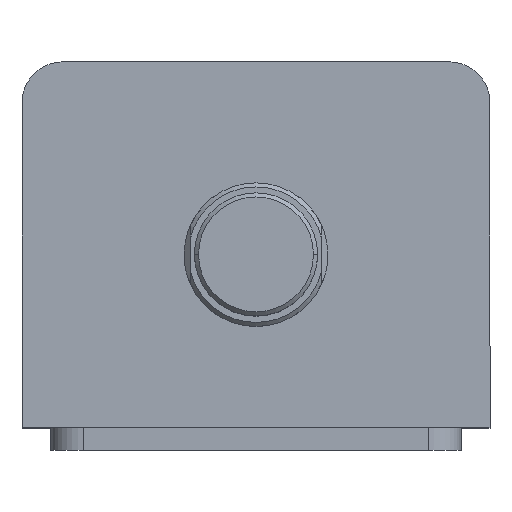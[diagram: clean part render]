
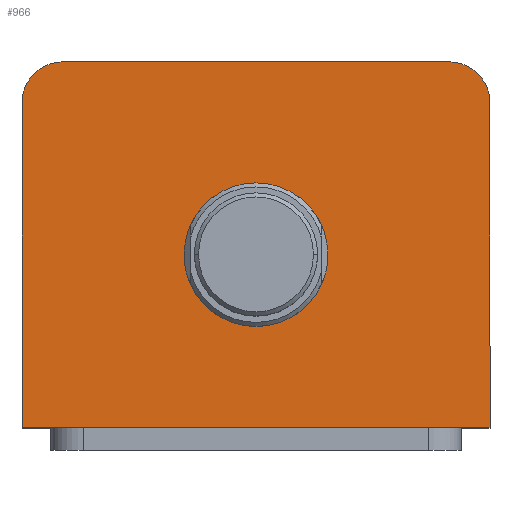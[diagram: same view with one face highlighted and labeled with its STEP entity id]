
A CAD part, top view. The second image highlights one B-rep face of the part: STEP entity #966.
In plain terms, the highlighted planar face has unit normal (0, 0, 1).
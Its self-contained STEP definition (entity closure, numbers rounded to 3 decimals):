
#107 = FACE_BOUND ( 'NONE', #781, .T. ) ;
#126 = FACE_OUTER_BOUND ( 'NONE', #793, .T. ) ;
#203 = PLANE ( 'NONE',  #3164 ) ;
#205 = CARTESIAN_POINT ( 'NONE',  ( 0., 0., 127. ) ) ;
#210 = DIRECTION ( 'NONE',  ( 0., 0., 1. ) ) ;
#211 = DIRECTION ( 'NONE',  ( 1., 0., 0. ) ) ;
#433 = CARTESIAN_POINT ( 'NONE',  ( 0., -2.5, 127. ) ) ;
#434 = DIRECTION ( 'NONE',  ( 0., 0., 1. ) ) ;
#435 = DIRECTION ( 'NONE',  ( 1., 0., 0. ) ) ;
#436 = CARTESIAN_POINT ( 'NONE',  ( 0., -2.5, 127. ) ) ;
#437 = DIRECTION ( 'NONE',  ( 0., 0., 1. ) ) ;
#438 = DIRECTION ( 'NONE',  ( 1., 0., 0. ) ) ;
#439 = CARTESIAN_POINT ( 'NONE',  ( -57., -44.5, 127. ) ) ;
#781 = EDGE_LOOP ( 'NONE', ( #2567, #2568 ) ) ;
#793 = EDGE_LOOP ( 'NONE', ( #2569, #2570, #2571, #2572, #2573, #2574 ) ) ;
#845 = CARTESIAN_POINT ( 'NONE',  ( 47., 34.5, 127. ) ) ;
#846 = DIRECTION ( 'NONE',  ( 0., 0., 1. ) ) ;
#847 = DIRECTION ( 'NONE',  ( 1., 0., 0. ) ) ;
#873 = CARTESIAN_POINT ( 'NONE',  ( -47., 34.5, 127. ) ) ;
#874 = DIRECTION ( 'NONE',  ( 0., 0., 1. ) ) ;
#875 = DIRECTION ( 'NONE',  ( 1., 0., 0. ) ) ;
#966 = ADVANCED_FACE ( 'NONE', ( #107, #126 ), #203, .T. ) ;
#1168 = DIRECTION ( 'NONE',  ( 1., 0., 0. ) ) ;
#1196 = CARTESIAN_POINT ( 'NONE',  ( 57., 44.5, 127. ) ) ;
#1197 = DIRECTION ( 'NONE',  ( 0., 1., 0. ) ) ;
#1230 = CARTESIAN_POINT ( 'NONE',  ( -57., 44.5, 127. ) ) ;
#1231 = DIRECTION ( 'NONE',  ( -1., 0., 0. ) ) ;
#1254 = CARTESIAN_POINT ( 'NONE',  ( -57., 44.5, 127. ) ) ;
#1255 = DIRECTION ( 'NONE',  ( 0., -1., 0. ) ) ;
#1317 = CIRCLE ( 'NONE', #3712, 17.5 ) ;
#1320 = CIRCLE ( 'NONE', #3711, 17.5 ) ;
#1326 = LINE ( 'NONE', #439, #1333 ) ;
#1333 = VECTOR ( 'NONE', #1168, 1000. ) ;
#1360 = LINE ( 'NONE', #1196, #1363 ) ;
#1363 = VECTOR ( 'NONE', #1197, 1000. ) ;
#1387 = LINE ( 'NONE', #1230, #1390 ) ;
#1390 = VECTOR ( 'NONE', #1231, 1000. ) ;
#1403 = LINE ( 'NONE', #1254, #1406 ) ;
#1406 = VECTOR ( 'NONE', #1255, 1000. ) ;
#1608 = CARTESIAN_POINT ( 'NONE',  ( -17.5, -2.5, 127. ) ) ;
#1609 = CARTESIAN_POINT ( 'NONE',  ( -57., -44.5, 127. ) ) ;
#1610 = CARTESIAN_POINT ( 'NONE',  ( 17.5, -2.5, 127. ) ) ;
#1612 = CARTESIAN_POINT ( 'NONE',  ( 57., -44.5, 127. ) ) ;
#1628 = CARTESIAN_POINT ( 'NONE',  ( 57., 34.5, 127. ) ) ;
#1640 = CARTESIAN_POINT ( 'NONE',  ( 47., 44.5, 127. ) ) ;
#1643 = CARTESIAN_POINT ( 'NONE',  ( -47., 44.5, 127. ) ) ;
#1651 = CARTESIAN_POINT ( 'NONE',  ( -57., 34.5, 127. ) ) ;
#1926 = VERTEX_POINT ( 'NONE', #1608 ) ;
#1927 = VERTEX_POINT ( 'NONE', #1609 ) ;
#1928 = VERTEX_POINT ( 'NONE', #1610 ) ;
#1930 = VERTEX_POINT ( 'NONE', #1612 ) ;
#1946 = VERTEX_POINT ( 'NONE', #1628 ) ;
#1958 = VERTEX_POINT ( 'NONE', #1640 ) ;
#1961 = VERTEX_POINT ( 'NONE', #1643 ) ;
#1969 = VERTEX_POINT ( 'NONE', #1651 ) ;
#2191 = CIRCLE ( 'NONE', #3585, 10. ) ;
#2203 = CIRCLE ( 'NONE', #3590, 10. ) ;
#2567 = ORIENTED_EDGE ( 'NONE', *, *, #3423, .F. ) ;
#2568 = ORIENTED_EDGE ( 'NONE', *, *, #3421, .F. ) ;
#2569 = ORIENTED_EDGE ( 'NONE', *, *, #3460, .T. ) ;
#2570 = ORIENTED_EDGE ( 'NONE', *, *, #3548, .T. ) ;
#2571 = ORIENTED_EDGE ( 'NONE', *, *, #3470, .T. ) ;
#2572 = ORIENTED_EDGE ( 'NONE', *, *, #3430, .T. ) ;
#2573 = ORIENTED_EDGE ( 'NONE', *, *, #3445, .T. ) ;
#2574 = ORIENTED_EDGE ( 'NONE', *, *, #3539, .T. ) ;
#3164 = AXIS2_PLACEMENT_3D ( 'NONE', #205, #210, #211 ) ;
#3421 = EDGE_CURVE ( 'NONE', #1926, #1928, #1317, .T. ) ;
#3423 = EDGE_CURVE ( 'NONE', #1928, #1926, #1320, .T. ) ;
#3430 = EDGE_CURVE ( 'NONE', #1927, #1930, #1326, .T. ) ;
#3445 = EDGE_CURVE ( 'NONE', #1930, #1946, #1360, .T. ) ;
#3460 = EDGE_CURVE ( 'NONE', #1958, #1961, #1387, .T. ) ;
#3470 = EDGE_CURVE ( 'NONE', #1969, #1927, #1403, .T. ) ;
#3539 = EDGE_CURVE ( 'NONE', #1946, #1958, #2191, .T. ) ;
#3548 = EDGE_CURVE ( 'NONE', #1961, #1969, #2203, .T. ) ;
#3585 = AXIS2_PLACEMENT_3D ( 'NONE', #845, #846, #847 ) ;
#3590 = AXIS2_PLACEMENT_3D ( 'NONE', #873, #874, #875 ) ;
#3711 = AXIS2_PLACEMENT_3D ( 'NONE', #436, #437, #438 ) ;
#3712 = AXIS2_PLACEMENT_3D ( 'NONE', #433, #434, #435 ) ;
